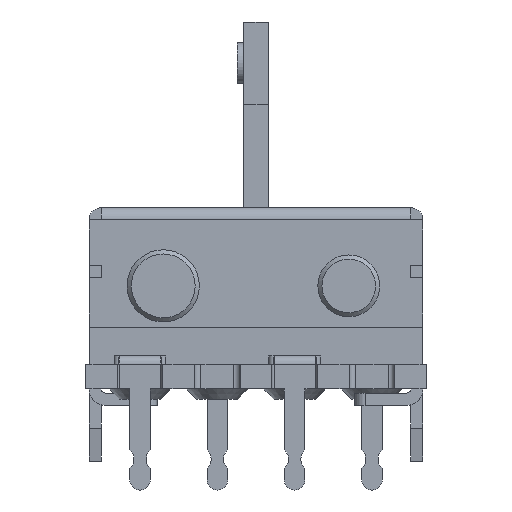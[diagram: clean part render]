
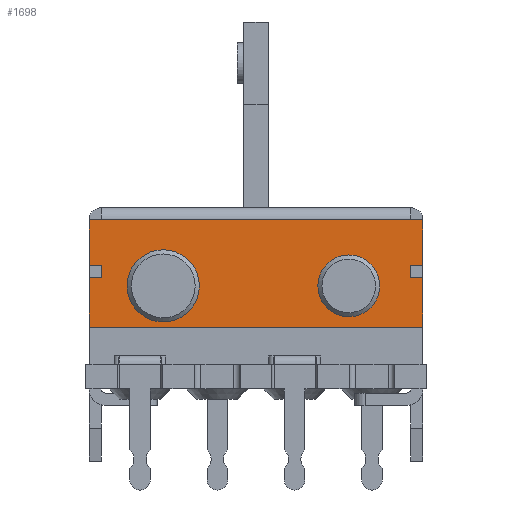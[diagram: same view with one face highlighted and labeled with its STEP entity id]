
A CAD part, left-side view. The second image highlights one B-rep face of the part: STEP entity #1698.
In plain terms, the highlighted planar face has unit normal (-1, 0, 0).
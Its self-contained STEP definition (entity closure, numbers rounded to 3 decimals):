
#853 = VERTEX_POINT('',#854);
#854 = CARTESIAN_POINT('',(-63.6,7.5,-0.6));
#863 = VERTEX_POINT('',#864);
#864 = CARTESIAN_POINT('',(-63.6,-7.5,-0.6));
#871 = EDGE_CURVE('',#853,#863,#872,.T.);
#872 = LINE('',#873,#874);
#873 = CARTESIAN_POINT('',(-63.6,7.5,-0.6));
#874 = VECTOR('',#875,1.);
#875 = DIRECTION('',(0.,-1.,0.));
#1026 = VERTEX_POINT('',#1027);
#1027 = CARTESIAN_POINT('',(-63.6,8.1,-0.6));
#1033 = EDGE_CURVE('',#1034,#1026,#1036,.T.);
#1034 = VERTEX_POINT('',#1035);
#1035 = CARTESIAN_POINT('',(-63.6,8.1,-2.8));
#1036 = LINE('',#1037,#1038);
#1037 = CARTESIAN_POINT('',(-63.6,8.1,-5.8));
#1038 = VECTOR('',#1039,1.);
#1039 = DIRECTION('',(0.,0.,1.));
#1058 = VERTEX_POINT('',#1059);
#1059 = CARTESIAN_POINT('',(-63.6,8.1,-3.4));
#1065 = EDGE_CURVE('',#1066,#1058,#1068,.T.);
#1066 = VERTEX_POINT('',#1067);
#1067 = CARTESIAN_POINT('',(-63.6,8.1,-5.8));
#1068 = LINE('',#1069,#1070);
#1069 = CARTESIAN_POINT('',(-63.6,8.1,-5.8));
#1070 = VECTOR('',#1071,1.);
#1071 = DIRECTION('',(0.,0.,1.));
#1698 = ADVANCED_FACE('',(#1699,#1786,#1797),#1808,.T.);
#1699 = FACE_BOUND('',#1700,.T.);
#1700 = EDGE_LOOP('',(#1701,#1702,#1708,#1709,#1717,#1725,#1731,#1732,
    #1740,#1748,#1756,#1764,#1772,#1780));
#1701 = ORIENTED_EDGE('',*,*,#871,.F.);
#1702 = ORIENTED_EDGE('',*,*,#1703,.T.);
#1703 = EDGE_CURVE('',#853,#1026,#1704,.T.);
#1704 = LINE('',#1705,#1706);
#1705 = CARTESIAN_POINT('',(-63.6,8.8,-0.6));
#1706 = VECTOR('',#1707,1.);
#1707 = DIRECTION('',(0.,1.,0.));
#1708 = ORIENTED_EDGE('',*,*,#1033,.F.);
#1709 = ORIENTED_EDGE('',*,*,#1710,.F.);
#1710 = EDGE_CURVE('',#1711,#1034,#1713,.T.);
#1711 = VERTEX_POINT('',#1712);
#1712 = CARTESIAN_POINT('',(-63.6,7.5,-2.8));
#1713 = LINE('',#1714,#1715);
#1714 = CARTESIAN_POINT('',(-63.6,8.8,-2.8));
#1715 = VECTOR('',#1716,1.);
#1716 = DIRECTION('',(0.,1.,0.));
#1717 = ORIENTED_EDGE('',*,*,#1718,.F.);
#1718 = EDGE_CURVE('',#1719,#1711,#1721,.T.);
#1719 = VERTEX_POINT('',#1720);
#1720 = CARTESIAN_POINT('',(-63.6,7.5,-3.4));
#1721 = LINE('',#1722,#1723);
#1722 = CARTESIAN_POINT('',(-63.6,7.5,-4.6));
#1723 = VECTOR('',#1724,1.);
#1724 = DIRECTION('',(0.,0.,1.));
#1725 = ORIENTED_EDGE('',*,*,#1726,.T.);
#1726 = EDGE_CURVE('',#1719,#1058,#1727,.T.);
#1727 = LINE('',#1728,#1729);
#1728 = CARTESIAN_POINT('',(-63.6,8.8,-3.4));
#1729 = VECTOR('',#1730,1.);
#1730 = DIRECTION('',(0.,1.,0.));
#1731 = ORIENTED_EDGE('',*,*,#1065,.F.);
#1732 = ORIENTED_EDGE('',*,*,#1733,.T.);
#1733 = EDGE_CURVE('',#1066,#1734,#1736,.T.);
#1734 = VERTEX_POINT('',#1735);
#1735 = CARTESIAN_POINT('',(-63.6,-8.1,-5.8));
#1736 = LINE('',#1737,#1738);
#1737 = CARTESIAN_POINT('',(-63.6,8.1,-5.8));
#1738 = VECTOR('',#1739,1.);
#1739 = DIRECTION('',(0.,-1.,0.));
#1740 = ORIENTED_EDGE('',*,*,#1741,.T.);
#1741 = EDGE_CURVE('',#1734,#1742,#1744,.T.);
#1742 = VERTEX_POINT('',#1743);
#1743 = CARTESIAN_POINT('',(-63.6,-8.1,-3.4));
#1744 = LINE('',#1745,#1746);
#1745 = CARTESIAN_POINT('',(-63.6,-8.1,-5.8));
#1746 = VECTOR('',#1747,1.);
#1747 = DIRECTION('',(0.,0.,1.));
#1748 = ORIENTED_EDGE('',*,*,#1749,.T.);
#1749 = EDGE_CURVE('',#1742,#1750,#1752,.T.);
#1750 = VERTEX_POINT('',#1751);
#1751 = CARTESIAN_POINT('',(-63.6,-7.5,-3.4));
#1752 = LINE('',#1753,#1754);
#1753 = CARTESIAN_POINT('',(-63.6,0.3,-3.4));
#1754 = VECTOR('',#1755,1.);
#1755 = DIRECTION('',(0.,1.,0.));
#1756 = ORIENTED_EDGE('',*,*,#1757,.T.);
#1757 = EDGE_CURVE('',#1750,#1758,#1760,.T.);
#1758 = VERTEX_POINT('',#1759);
#1759 = CARTESIAN_POINT('',(-63.6,-7.5,-2.8));
#1760 = LINE('',#1761,#1762);
#1761 = CARTESIAN_POINT('',(-63.6,-7.5,-4.6));
#1762 = VECTOR('',#1763,1.);
#1763 = DIRECTION('',(0.,0.,1.));
#1764 = ORIENTED_EDGE('',*,*,#1765,.F.);
#1765 = EDGE_CURVE('',#1766,#1758,#1768,.T.);
#1766 = VERTEX_POINT('',#1767);
#1767 = CARTESIAN_POINT('',(-63.6,-8.1,-2.8));
#1768 = LINE('',#1769,#1770);
#1769 = CARTESIAN_POINT('',(-63.6,0.3,-2.8));
#1770 = VECTOR('',#1771,1.);
#1771 = DIRECTION('',(0.,1.,0.));
#1772 = ORIENTED_EDGE('',*,*,#1773,.T.);
#1773 = EDGE_CURVE('',#1766,#1774,#1776,.T.);
#1774 = VERTEX_POINT('',#1775);
#1775 = CARTESIAN_POINT('',(-63.6,-8.1,-0.6));
#1776 = LINE('',#1777,#1778);
#1777 = CARTESIAN_POINT('',(-63.6,-8.1,-5.8));
#1778 = VECTOR('',#1779,1.);
#1779 = DIRECTION('',(0.,0.,1.));
#1780 = ORIENTED_EDGE('',*,*,#1781,.T.);
#1781 = EDGE_CURVE('',#1774,#863,#1782,.T.);
#1782 = LINE('',#1783,#1784);
#1783 = CARTESIAN_POINT('',(-63.6,0.3,-0.6));
#1784 = VECTOR('',#1785,1.);
#1785 = DIRECTION('',(0.,1.,0.));
#1786 = FACE_BOUND('',#1787,.T.);
#1787 = EDGE_LOOP('',(#1788));
#1788 = ORIENTED_EDGE('',*,*,#1789,.T.);
#1789 = EDGE_CURVE('',#1790,#1790,#1792,.T.);
#1790 = VERTEX_POINT('',#1791);
#1791 = CARTESIAN_POINT('',(-63.6,-4.5,-5.3));
#1792 = CIRCLE('',#1793,1.5);
#1793 = AXIS2_PLACEMENT_3D('',#1794,#1795,#1796);
#1794 = CARTESIAN_POINT('',(-63.6,-4.5,-3.8));
#1795 = DIRECTION('',(1.,-0.,0.));
#1796 = DIRECTION('',(0.,0.,-1.));
#1797 = FACE_BOUND('',#1798,.T.);
#1798 = EDGE_LOOP('',(#1799));
#1799 = ORIENTED_EDGE('',*,*,#1800,.T.);
#1800 = EDGE_CURVE('',#1801,#1801,#1803,.T.);
#1801 = VERTEX_POINT('',#1802);
#1802 = CARTESIAN_POINT('',(-63.6,4.5,-5.55));
#1803 = CIRCLE('',#1804,1.75);
#1804 = AXIS2_PLACEMENT_3D('',#1805,#1806,#1807);
#1805 = CARTESIAN_POINT('',(-63.6,4.5,-3.8));
#1806 = DIRECTION('',(1.,-0.,0.));
#1807 = DIRECTION('',(0.,0.,-1.));
#1808 = PLANE('',#1809);
#1809 = AXIS2_PLACEMENT_3D('',#1810,#1811,#1812);
#1810 = CARTESIAN_POINT('',(-63.6,8.1,-5.8));
#1811 = DIRECTION('',(-1.,0.,0.));
#1812 = DIRECTION('',(0.,0.,1.));
